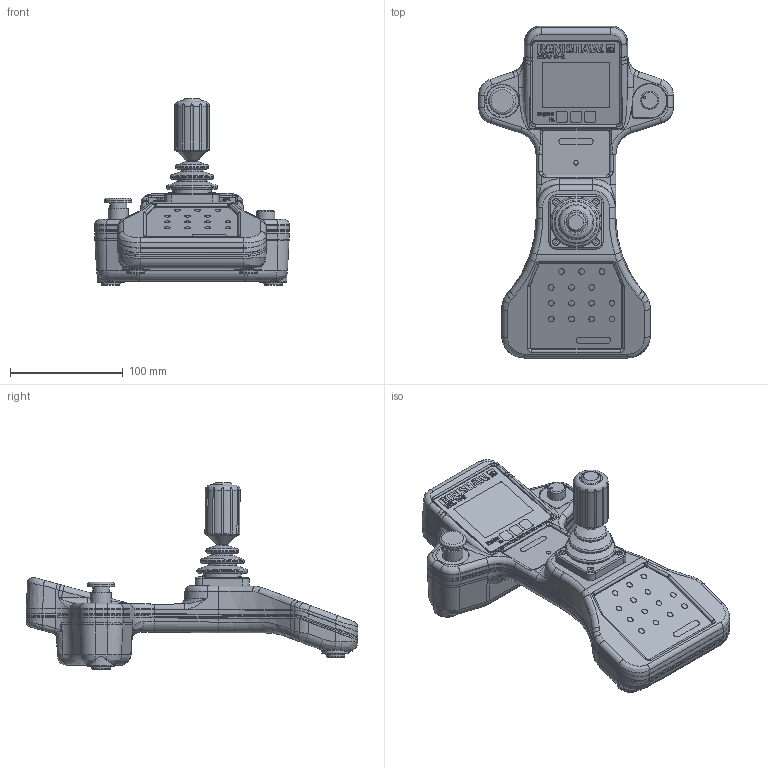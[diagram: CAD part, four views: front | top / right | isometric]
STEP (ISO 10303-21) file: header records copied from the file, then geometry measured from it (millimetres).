
FILE_DESCRIPTION(/* description */ (''),/* implementation_level */ '2;1');
FILE_NAME(/* name */ 'MCU W-2 Joystick Assembly.stp',/* time_stamp */ '2022-10-12T07:55:53+01:00',/* author */ (''),/* organization */ (''),/* preprocessor_version */ 'ST-DEVELOPER v16.7',/* originating_system */ 'SIEMENS PLM Software NX 1946',/* authorisation */ '');
FILE_SCHEMA (('AUTOMOTIVE_DESIGN { 1 0 10303 214 3 1 1 1 }'));
Length unit declared in the file: millimetre
Products named in the file (1): MCU W-2 Joystick Assembly_x_t
Bounding box: 173 x 294.93 x 165.78 mm (x, y, z)
Volume: 1263489.8 mm3; surface area: 123603.4 mm2
Topology: 1 solids, 1 shells, 1066 faces, 2784 edges, 1836 vertices
Faces by surface type: plane 378, bspline 262, cylinder 251, torus 98, cone 59, sphere 10, extrusion 8
Full cylindrical faces by diameter (mm): 1.07 x8, 5.99 x2, 6 x4, 9 x1, 15 x1, 16 x2, 18 x2, 19 x5, 24 x1, 25 x1, 29 x2, 34 x1, 39 x1, 45 x1
Entity records: 40600 total; most frequent: CARTESIAN_POINT 15523, ORIENTED_EDGE 5296, DIRECTION 4129, EDGE_CURVE 2648, VERTEX_POINT 1789, AXIS2_PLACEMENT_3D 1557, EDGE_LOOP 1271, ADVANCED_FACE 1066
